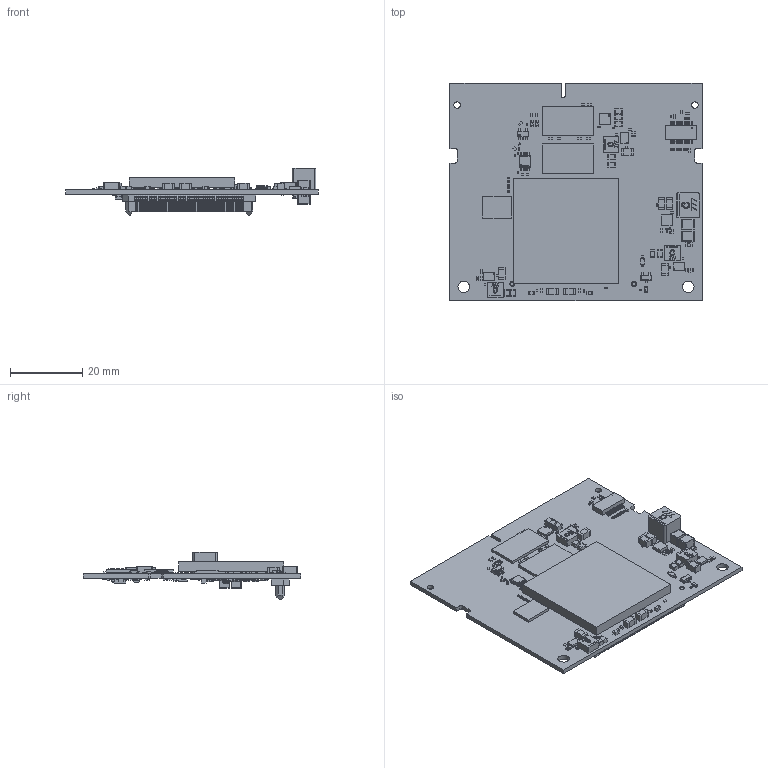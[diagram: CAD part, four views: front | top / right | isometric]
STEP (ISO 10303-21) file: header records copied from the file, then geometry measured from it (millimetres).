
FILE_DESCRIPTION(('Open CASCADE Model'),'2;1');
FILE_NAME('Open CASCADE Shape Model','2024-03-26T12:21:42',('Author'),( 'Open CASCADE'),'Open CASCADE STEP processor 7.5','Open CASCADE 7.5' ,'Unknown');
FILE_SCHEMA(('AUTOMOTIVE_DESIGN { 1 0 10303 214 1 1 1 1 }'));
Length unit declared in the file: millimetre
Products named in the file (1026): Open CASCADE STEP translator 7.5 1; Open CASCADE STEP translator 7.5 2; Open CASCADE STEP translator 7.5 3; Open CASCADE STEP translator 7.5 4; Open CASCADE STEP translator 7.5 5; Open CASCADE STEP translator 7.5 6; Open CASCADE STEP translator 7.5 7; Open CASCADE STEP translator 7.5 8; Open CASCADE STEP translator 7.5 9; Open CASCADE STEP translator 7.5 10; Open CASCADE STEP translator 7.5 11; Open CASCADE STEP translator 7.5 12; Open CASCADE STEP translator 7.5 13; Open CASCADE STEP translator 7.5 14; Open CASCADE STEP translator 7.5 15; Open CASCADE STEP translator 7.5 16; Open CASCADE STEP translator 7.5 17; Open CASCADE STEP translator 7.5 18; Open CASCADE STEP translator 7.5 19; Open CASCADE STEP translator 7.5 20; Open CASCADE STEP translator 7.5 21; Open CASCADE STEP translator 7.5 22; Open CASCADE STEP translator 7.5 23; Open CASCADE STEP translator 7.5 24; Open CASCADE STEP translator 7.5 25; Open CASCADE STEP translator 7.5 26; Open CASCADE STEP translator 7.5 27; Open CASCADE STEP translator 7.5 28; Open CASCADE STEP translator 7.5 29; Open CASCADE STEP translator 7.5 30; Open CASCADE STEP translator 7.5 31; Open CASCADE STEP translator 7.5 32; Open CASCADE STEP translator 7.5 33; Open CASCADE STEP translator 7.5 34; Open CASCADE STEP translator 7.5 35; Open CASCADE STEP translator 7.5 36; Open CASCADE STEP translator 7.5 37; Open CASCADE STEP translator 7.5 38; Open CASCADE STEP translator 7.5 39; Open CASCADE STEP translator 7.5 40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
Bounding box: 69.6 x 60 x 13.17 mm (x, y, z)
Volume: 8819.4 mm3; surface area: 16153.4 mm2
Topology: 1076 solids, 1079 shells, 11870 faces, 28562 edges, 18778 vertices
Faces by surface type: plane 10694, cylinder 954, bspline 113, sphere 106, torus 3
Full cylindrical faces by diameter (mm): 0.195 x1, 0.2 x1, 0.388 x2, 1.32 x1, 1.45 x2, 1.8 x2, 3.174 x2
Entity records: 369089 total; most frequent: CARTESIAN_POINT 64219, ORIENTED_EDGE 56821, DIRECTION 53320, EDGE_CURVE 28412, LINE 26160, VECTOR 26160, VERTEX_POINT 18754, AXIS2_PLACEMENT_3D 13580
